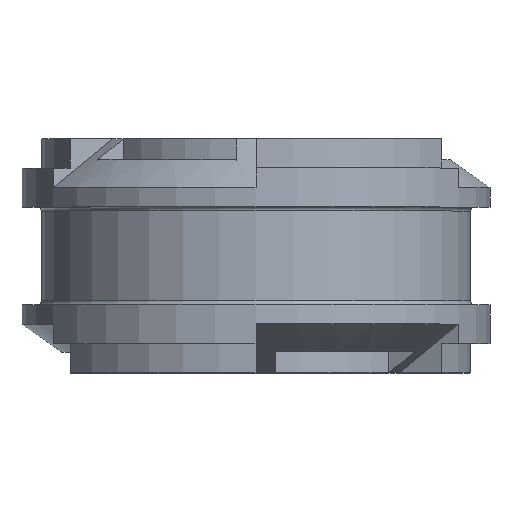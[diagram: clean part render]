
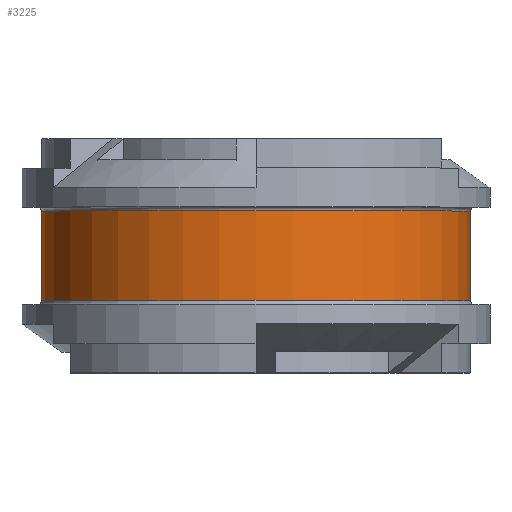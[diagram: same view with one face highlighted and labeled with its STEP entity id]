
A CAD part, top view. The second image highlights one B-rep face of the part: STEP entity #3225.
In plain terms, the highlighted cylindrical face has radius 11 mm (diameter 22 mm), a partial arc.
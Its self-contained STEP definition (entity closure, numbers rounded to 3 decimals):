
#3195 = EDGE_CURVE('',#3196,#3198,#3200,.T.);
#3196 = VERTEX_POINT('',#3197);
#3197 = CARTESIAN_POINT('',(11.,-2.3,0.));
#3198 = VERTEX_POINT('',#3199);
#3199 = CARTESIAN_POINT('',(-11.,-2.3,0.));
#3200 = CIRCLE('',#3201,11.);
#3201 = AXIS2_PLACEMENT_3D('',#3202,#3203,#3204);
#3202 = CARTESIAN_POINT('',(0.,-2.3,0.));
#3203 = DIRECTION('',(0.,-1.,0.));
#3204 = DIRECTION('',(1.,0.,0.));
#3225 = ADVANCED_FACE('',(#3226),#3252,.T.);
#3226 = FACE_BOUND('',#3227,.T.);
#3227 = EDGE_LOOP('',(#3228,#3236,#3245,#3251));
#3228 = ORIENTED_EDGE('',*,*,#3229,.T.);
#3229 = EDGE_CURVE('',#3196,#3230,#3232,.T.);
#3230 = VERTEX_POINT('',#3231);
#3231 = CARTESIAN_POINT('',(11.,2.3,0.));
#3232 = LINE('',#3233,#3234);
#3233 = CARTESIAN_POINT('',(11.,-2.3,0.));
#3234 = VECTOR('',#3235,1.);
#3235 = DIRECTION('',(0.,1.,0.));
#3236 = ORIENTED_EDGE('',*,*,#3237,.T.);
#3237 = EDGE_CURVE('',#3230,#3238,#3240,.T.);
#3238 = VERTEX_POINT('',#3239);
#3239 = CARTESIAN_POINT('',(-11.,2.3,0.));
#3240 = CIRCLE('',#3241,11.);
#3241 = AXIS2_PLACEMENT_3D('',#3242,#3243,#3244);
#3242 = CARTESIAN_POINT('',(0.,2.3,0.));
#3243 = DIRECTION('',(0.,-1.,0.));
#3244 = DIRECTION('',(1.,0.,0.));
#3245 = ORIENTED_EDGE('',*,*,#3246,.F.);
#3246 = EDGE_CURVE('',#3198,#3238,#3247,.T.);
#3247 = LINE('',#3248,#3249);
#3248 = CARTESIAN_POINT('',(-11.,-2.3,0.));
#3249 = VECTOR('',#3250,1.);
#3250 = DIRECTION('',(0.,1.,0.));
#3251 = ORIENTED_EDGE('',*,*,#3195,.F.);
#3252 = CYLINDRICAL_SURFACE('',#3253,11.);
#3253 = AXIS2_PLACEMENT_3D('',#3254,#3255,#3256);
#3254 = CARTESIAN_POINT('',(0.,0.,0.));
#3255 = DIRECTION('',(0.,-1.,0.));
#3256 = DIRECTION('',(-1.,0.,0.));
